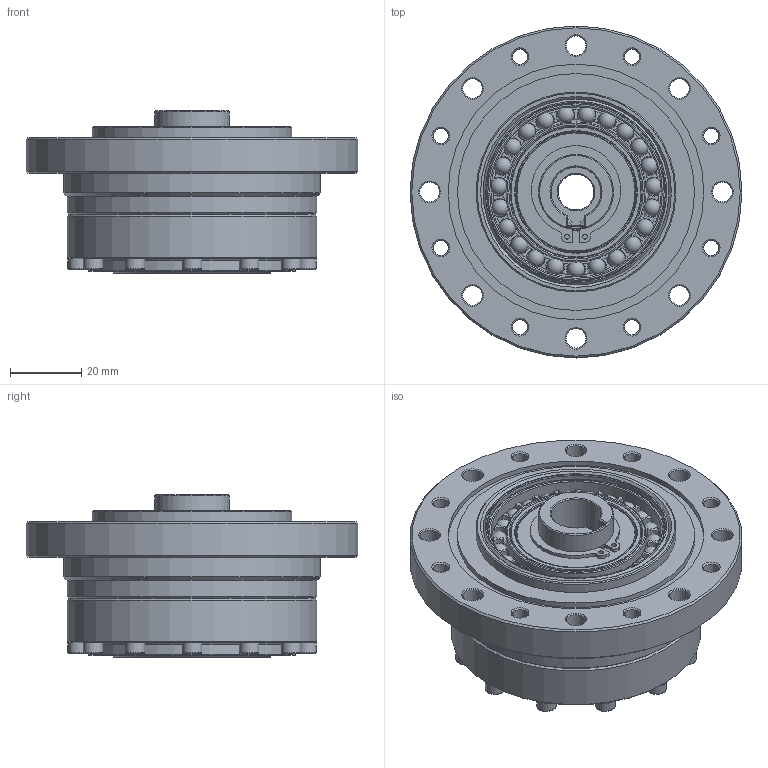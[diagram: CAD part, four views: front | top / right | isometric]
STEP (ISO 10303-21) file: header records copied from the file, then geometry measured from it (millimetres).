
FILE_DESCRIPTION(/* description */ (''),/* implementation_level */ '2;1');
FILE_NAME(/* name */ 'LSG-20-XX-U-II-φ14.stp',/* time_stamp */ '2023-06-29T10:02:23+08:00',/* author */ (''),/* organization */ (''),/* preprocessor_version */ 'ST-DEVELOPER v16.7',/* originating_system */ 'SIEMENS PLM Software NX 12.0',/* authorisation */ '');
FILE_SCHEMA (('AUTOMOTIVE_DESIGN { 1 0 10303 214 3 1 1 1 }'));
Length unit declared in the file: millimetre
Products named in the file (18): EB375007-20KC-46; EB375007-20KE-01; TC-45x55x4; O-54x1; GB-T70.1-2000,M3x16; GB-T70.1-2000,M5x16; 轴用弹性挡圈φ21; 销子3x10; CSG-20-00-01-K14; 铜垫圈21.5x33.5x1; CS-20-XX-03; CSG-20-00-02; 柔轮垫块LSS-20; 刚轮LSS-20; 柔轮LSS-20; EB375007-20KE; 交叉轴承LSS-20; LSG-20-XX-U-II-φ14
Assembly tree (38 placements, depth 3):
  LSG-20-XX-U-II-φ14
    交叉轴承LSS-20
      TC-45x55x4
    柔轮LSS-20
    刚轮LSS-20
    柔轮垫块LSS-20
    EB375007-20KE
      EB375007-20KE-01
      EB375007-20KC-46
    CSG-20-00-02
    CS-20-XX-03
    铜垫圈21.5x33.5x1
    CSG-20-00-01-K14
    销子3x10  x4
    轴用弹性挡圈φ21
    GB-T70.1-2000,M5x16  x8
    GB-T70.1-2000,M3x16  x12
    O-54x1
Bounding box: 93 x 93 x 45.5 mm (x, y, z)
Volume: 129311.3 mm3; surface area: 91016.5 mm2
Topology: 62 solids, 62 shells, 1298 faces, 2897 edges, 1723 vertices
Faces by surface type: plane 515, cone 377, cylinder 258, torus 124, sphere 23, revolution 1
Full cylindrical faces by diameter (mm): 1.4 x2, 2.5 x12, 2.874 x12, 3 x12, 3.5 x12, 4.2 x16, 4.826 x8, 5 x8, 5.5 x36, 8.5 x8, 10 x1, 14 x3, 20 x1, 21 x2, 21.5 x1, 22 x2, 31 x1, 33.5 x1, 34 x2, 35 x2, 37 x2, 39.25 x2, 40.2 x1, 40.64 x1, 43 x1, 44 x1, 44.5 x1, 45 x2, 45.4 x1, 46.36 x1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
Entity records: 22770 total; most frequent: CARTESIAN_POINT 5012, DIRECTION 3791, ORIENTED_EDGE 2804, AXIS2_PLACEMENT_3D 1700, EDGE_CURVE 1402, EDGE_LOOP 1358, VERTEX_POINT 1120, FACE_BOUND 1072
